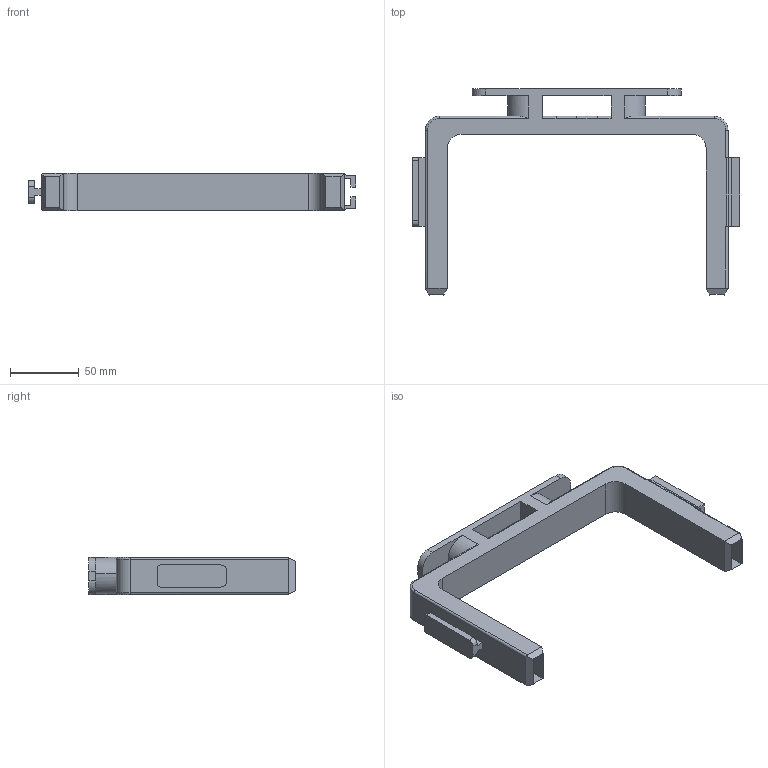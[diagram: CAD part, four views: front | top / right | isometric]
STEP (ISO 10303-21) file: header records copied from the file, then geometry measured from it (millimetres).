
FILE_DESCRIPTION(/* description */ (''),/* implementation_level */ '2;1');
FILE_NAME(/* name */ '',/* time_stamp */ '2025-05-16T21:29:30+09:00',/* author */ (''),/* organization */ (''),/* preprocessor_version */ 'ST-DEVELOPER v20.1',/* originating_system */ 'Autodesk Translation Framework v14.4.0.0',/* authorisation */ '');
FILE_SCHEMA (('AUTOMOTIVE_DESIGN { 1 0 10303 214 3 1 1 }'));
Length unit declared in the file: millimetre
Products named in the file (1): レジ袋ゴミスタンドadpA
Bounding box: 238 x 150 x 27 mm (x, y, z)
Volume: 200634.4 mm3; surface area: 58885.5 mm2
Topology: 1 solids, 1 shells, 108 faces, 297 edges, 192 vertices
Faces by surface type: plane 66, cylinder 38, torus 4
Entity records: 3460 total; most frequent: CARTESIAN_POINT 618, ORIENTED_EDGE 594, DIRECTION 585, EDGE_CURVE 297, LINE 219, VECTOR 219, VERTEX_POINT 192, AXIS2_PLACEMENT_3D 183
